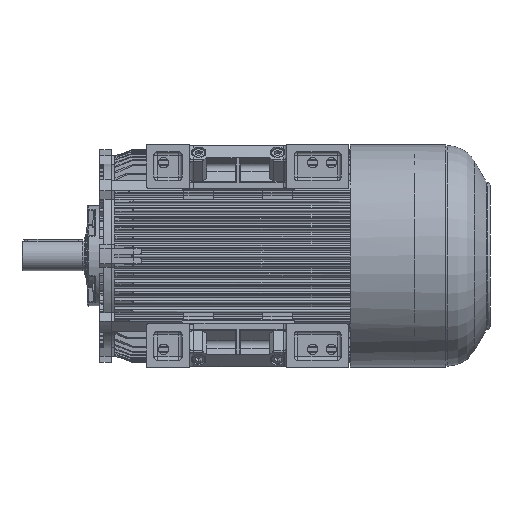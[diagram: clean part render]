
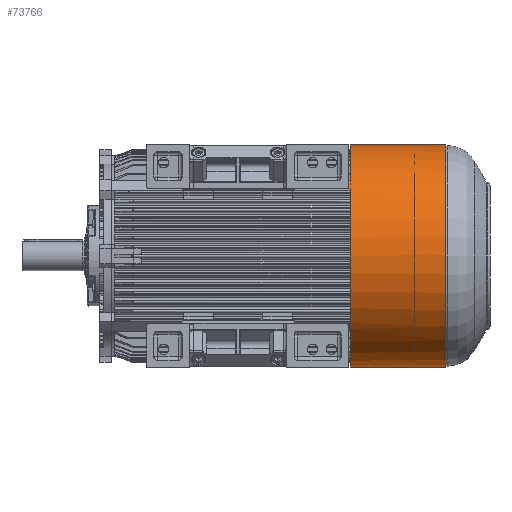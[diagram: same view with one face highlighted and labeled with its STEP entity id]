
A CAD part, front view. The second image highlights one B-rep face of the part: STEP entity #73766.
In plain terms, the highlighted cylindrical face has radius 302.496 mm (diameter 604.992 mm), a full revolution.
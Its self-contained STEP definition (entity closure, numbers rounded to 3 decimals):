
#5026=LINE('',#109350,#8876);
#5030=LINE('',#109389,#8880);
#5034=LINE('',#109399,#8884);
#5035=LINE('',#109403,#8885);
#5040=LINE('',#109417,#8890);
#5041=LINE('',#109421,#8891);
#8876=VECTOR('',#89264,1000.);
#8880=VECTOR('',#89272,1000.);
#8884=VECTOR('',#89282,1000.);
#8885=VECTOR('',#89289,1000.);
#8890=VECTOR('',#89304,1000.);
#8891=VECTOR('',#89309,1000.);
#11357=CIRCLE('',#78178,302.496);
#11387=CIRCLE('',#78249,302.496);
#11388=CIRCLE('',#78254,302.496);
#11389=CIRCLE('',#78257,302.496);
#11390=CIRCLE('',#78260,302.496);
#11391=CIRCLE('',#78262,302.496);
#11392=CIRCLE('',#78265,302.496);
#11393=CIRCLE('',#78266,302.496);
#20947=ORIENTED_EDGE('',*,*,#32353,.T.);
#20948=ORIENTED_EDGE('',*,*,#32344,.T.);
#20949=ORIENTED_EDGE('',*,*,#32226,.T.);
#20950=ORIENTED_EDGE('',*,*,#32332,.T.);
#20951=ORIENTED_EDGE('',*,*,#32345,.F.);
#20952=ORIENTED_EDGE('',*,*,#32348,.F.);
#20953=ORIENTED_EDGE('',*,*,#32354,.F.);
#20954=ORIENTED_EDGE('',*,*,#32355,.T.);
#20955=ORIENTED_EDGE('',*,*,#32352,.F.);
#20956=ORIENTED_EDGE('',*,*,#32350,.F.);
#20957=ORIENTED_EDGE('',*,*,#32333,.F.);
#20958=ORIENTED_EDGE('',*,*,#32336,.F.);
#20959=ORIENTED_EDGE('',*,*,#32338,.F.);
#20960=ORIENTED_EDGE('',*,*,#32341,.F.);
#20961=ORIENTED_EDGE('',*,*,#32343,.T.);
#32226=EDGE_CURVE('',#38545,#38540,#11357,.T.);
#32332=EDGE_CURVE('',#38540,#38605,#11387,.F.);
#32333=EDGE_CURVE('',#38606,#38607,#5026,.T.);
#32336=EDGE_CURVE('',#38608,#38606,#41316,.T.);
#32338=EDGE_CURVE('',#38609,#38608,#5030,.F.);
#32341=EDGE_CURVE('',#38610,#38609,#11388,.T.);
#32343=EDGE_CURVE('',#38610,#38611,#5034,.T.);
#32344=EDGE_CURVE('',#38611,#38545,#11389,.F.);
#32345=EDGE_CURVE('',#38612,#38605,#5035,.T.);
#32348=EDGE_CURVE('',#38613,#38612,#11390,.T.);
#32350=EDGE_CURVE('',#38607,#38614,#11391,.T.);
#32352=EDGE_CURVE('',#38614,#38615,#5040,.T.);
#32353=EDGE_CURVE('',#38616,#38616,#11392,.T.);
#32354=EDGE_CURVE('',#38617,#38613,#5041,.F.);
#32355=EDGE_CURVE('',#38617,#38615,#11393,.T.);
#38540=VERTEX_POINT('',#109121);
#38545=VERTEX_POINT('',#109135);
#38605=VERTEX_POINT('',#109347);
#38606=VERTEX_POINT('',#109351);
#38607=VERTEX_POINT('',#109352);
#38608=VERTEX_POINT('',#109386);
#38609=VERTEX_POINT('',#109390);
#38610=VERTEX_POINT('',#109394);
#38611=VERTEX_POINT('',#109398);
#38612=VERTEX_POINT('',#109404);
#38613=VERTEX_POINT('',#109408);
#38614=VERTEX_POINT('',#109412);
#38615=VERTEX_POINT('',#109416);
#38616=VERTEX_POINT('',#109420);
#38617=VERTEX_POINT('',#109422);
#41316=B_SPLINE_CURVE_WITH_KNOTS('',3,(#109356,#109357,#109358,#109359,
#109360,#109361,#109362,#109363,#109364,#109365,#109366,#109367,#109368,
#109369,#109370,#109371,#109372,#109373,#109374,#109375,#109376,#109377,
#109378,#109379,#109380,#109381,#109382,#109383,#109384,#109385),
 .UNSPECIFIED.,.F.,.F.,(4,1,1,1,1,1,1,1,1,1,1,1,1,1,1,1,1,1,1,1,1,1,1,1,
1,1,1,4),(0.,0.012,0.018,0.024,0.035,
0.041,0.047,0.053,0.059,
0.065,0.071,0.076,0.082,
0.088,0.094,0.1,0.106,
0.118,0.123,0.129,0.135,
0.141,0.147,0.153,0.159,
0.165,0.176,0.188),.UNSPECIFIED.);
#43458=EDGE_LOOP('',(#20947));
#43459=EDGE_LOOP('',(#20948,#20949,#20950,#20951,#20952,#20953,#20954,#20955,
#20956,#20957,#20958,#20959,#20960,#20961));
#47169=FACE_BOUND('',#43458,.T.);
#47170=FACE_BOUND('',#43459,.T.);
#49679=CYLINDRICAL_SURFACE('',#78264,302.496);
#73766=ADVANCED_FACE('',(#47169,#47170),#49679,.T.);
#78178=AXIS2_PLACEMENT_3D('',#109134,#89044,#89045);
#78249=AXIS2_PLACEMENT_3D('',#109348,#89260,#89261);
#78254=AXIS2_PLACEMENT_3D('',#109395,#89277,#89278);
#78257=AXIS2_PLACEMENT_3D('',#109401,#89285,#89286);
#78260=AXIS2_PLACEMENT_3D('',#109409,#89294,#89295);
#78262=AXIS2_PLACEMENT_3D('',#109413,#89299,#89300);
#78264=AXIS2_PLACEMENT_3D('',#109418,#89305,#89306);
#78265=AXIS2_PLACEMENT_3D('',#109419,#89307,#89308);
#78266=AXIS2_PLACEMENT_3D('',#109423,#89310,#89311);
#89044=DIRECTION('',(1.,0.,0.));
#89045=DIRECTION('',(0.,0.,-1.));
#89260=DIRECTION('',(-1.,0.,0.));
#89261=DIRECTION('',(0.,0.,1.));
#89264=DIRECTION('',(-1.,0.,0.));
#89272=DIRECTION('',(-1.,0.,0.));
#89277=DIRECTION('',(-1.,0.,0.));
#89278=DIRECTION('',(0.,1.,0.));
#89282=DIRECTION('',(-1.,0.,0.));
#89285=DIRECTION('',(-1.,0.,0.));
#89286=DIRECTION('',(0.,0.,1.));
#89289=DIRECTION('',(-1.,0.,0.));
#89294=DIRECTION('',(-1.,0.,0.));
#89295=DIRECTION('',(0.,1.,0.));
#89299=DIRECTION('',(-1.,0.,0.));
#89300=DIRECTION('',(0.,1.,0.));
#89304=DIRECTION('',(-1.,0.,0.));
#89305=DIRECTION('',(-1.,0.,0.));
#89306=DIRECTION('',(0.,1.,0.));
#89307=DIRECTION('',(-1.,0.,0.));
#89308=DIRECTION('',(0.,0.,1.));
#89309=DIRECTION('',(-1.,0.,0.));
#89310=DIRECTION('',(1.,0.,0.));
#89311=DIRECTION('',(0.,1.,0.));
#109121=CARTESIAN_POINT('',(630.01,-239.33,185.));
#109134=CARTESIAN_POINT('',(630.01,0.,0.));
#109135=CARTESIAN_POINT('',(630.01,-236.,189.23));
#109347=CARTESIAN_POINT('',(630.01,-240.815,183.063));
#109348=CARTESIAN_POINT('',(630.01,0.,0.));
#109350=CARTESIAN_POINT('',(1006.46,296.486,-60.));
#109351=CARTESIAN_POINT('',(658.46,296.486,-60.));
#109352=CARTESIAN_POINT('',(635.373,296.486,-60.));
#109356=CARTESIAN_POINT('',(658.46,296.486,60.));
#109357=CARTESIAN_POINT('',(662.434,296.486,60.));
#109358=CARTESIAN_POINT('',(668.292,296.606,59.414));
#109359=CARTESIAN_POINT('',(675.907,296.981,57.51));
#109360=CARTESIAN_POINT('',(683.387,297.493,54.826));
#109361=CARTESIAN_POINT('',(690.247,298.155,51.152));
#109362=CARTESIAN_POINT('',(696.603,298.918,46.442));
#109363=CARTESIAN_POINT('',(700.958,299.507,42.488));
#109364=CARTESIAN_POINT('',(704.884,300.091,38.161));
#109365=CARTESIAN_POINT('',(708.396,300.656,33.438));
#109366=CARTESIAN_POINT('',(711.451,301.18,28.347));
#109367=CARTESIAN_POINT('',(713.956,301.632,23.054));
#109368=CARTESIAN_POINT('',(715.942,302.005,17.536));
#109369=CARTESIAN_POINT('',(717.397,302.287,11.753));
#109370=CARTESIAN_POINT('',(718.263,302.457,5.92));
#109371=CARTESIAN_POINT('',(718.556,302.515,0.058));
#109372=CARTESIAN_POINT('',(718.272,302.459,-5.861));
#109373=CARTESIAN_POINT('',(717.105,302.229,-13.704));
#109374=CARTESIAN_POINT('',(714.841,301.793,-21.176));
#109375=CARTESIAN_POINT('',(711.448,301.18,-28.355));
#109376=CARTESIAN_POINT('',(708.429,300.662,-33.382));
#109377=CARTESIAN_POINT('',(704.949,300.101,-38.083));
#109378=CARTESIAN_POINT('',(700.973,299.509,-42.477));
#109379=CARTESIAN_POINT('',(696.61,298.919,-46.432));
#109380=CARTESIAN_POINT('',(691.92,298.355,-49.918));
#109381=CARTESIAN_POINT('',(686.882,297.83,-52.952));
#109382=CARTESIAN_POINT('',(679.717,297.209,-56.349));
#109383=CARTESIAN_POINT('',(670.39,296.65,-59.195));
#109384=CARTESIAN_POINT('',(662.434,296.486,-60.));
#109385=CARTESIAN_POINT('',(658.46,296.486,-60.));
#109386=CARTESIAN_POINT('',(658.46,296.486,60.));
#109389=CARTESIAN_POINT('',(1006.46,296.486,60.));
#109390=CARTESIAN_POINT('',(635.373,296.486,60.));
#109394=CARTESIAN_POINT('',(635.373,-228.,198.796));
#109395=CARTESIAN_POINT('',(635.373,0.,0.));
#109398=CARTESIAN_POINT('',(630.01,-228.,198.796));
#109399=CARTESIAN_POINT('',(1006.46,-228.,198.796));
#109401=CARTESIAN_POINT('',(630.01,0.,0.));
#109403=CARTESIAN_POINT('',(1006.46,-240.815,183.063));
#109404=CARTESIAN_POINT('',(635.373,-240.815,183.063));
#109408=CARTESIAN_POINT('',(635.373,-240.863,-183.));
#109409=CARTESIAN_POINT('',(635.373,0.,0.));
#109412=CARTESIAN_POINT('',(635.373,-228.,-198.796));
#109413=CARTESIAN_POINT('',(635.373,0.,0.));
#109416=CARTESIAN_POINT('',(632.46,-228.,-198.796));
#109417=CARTESIAN_POINT('',(1006.46,-228.,-198.796));
#109418=CARTESIAN_POINT('',(1006.46,0.,0.));
#109419=CARTESIAN_POINT('',(895.52,0.,0.));
#109420=CARTESIAN_POINT('',(895.52,0.,302.496));
#109421=CARTESIAN_POINT('',(1006.46,-240.863,-183.));
#109422=CARTESIAN_POINT('',(632.46,-240.863,-183.));
#109423=CARTESIAN_POINT('',(632.46,0.,0.));
